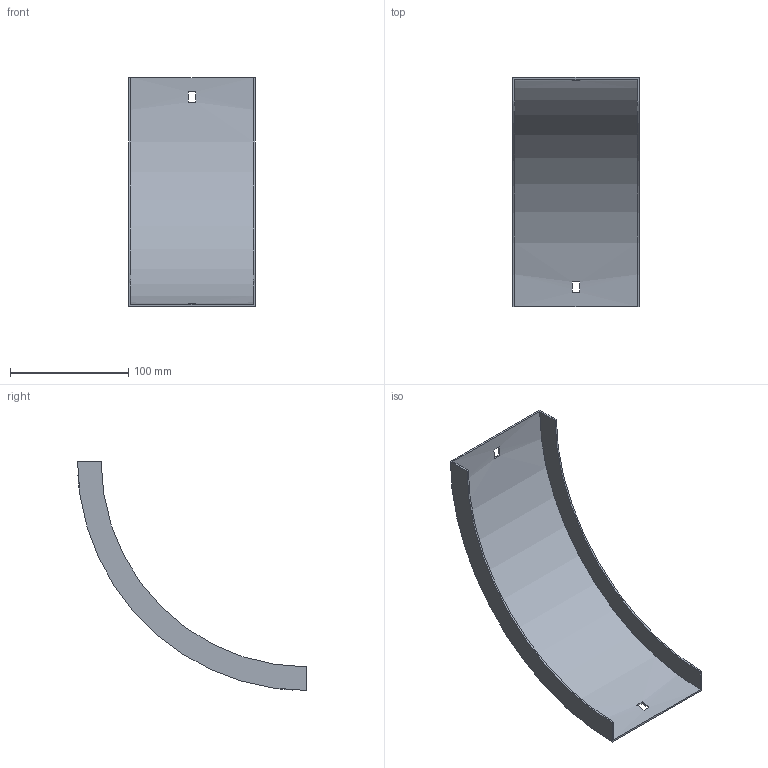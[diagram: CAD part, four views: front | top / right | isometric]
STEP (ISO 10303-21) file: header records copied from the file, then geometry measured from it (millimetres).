
FILE_DESCRIPTION (( 'STEP AP214' ), '1' );
FILE_NAME ('33N1I100.step', '2025-02-21T09:19:27', ( '' ), ( '' ), 'SwSTEP 2.0', 'SolidWorks 2023', '' );
FILE_SCHEMA (( 'AUTOMOTIVE_DESIGN' ));
Length unit declared in the file: millimetre
Products named in the file (1): 33N1I100
Bounding box: 107 x 194 x 194 mm (x, y, z)
Volume: 64520.2 mm3; surface area: 87375.8 mm2
Topology: 1 solids, 1 shells, 18 faces, 48 edges, 32 vertices
Faces by surface type: plane 14, cylinder 4
Entity records: 599 total; most frequent: DIRECTION 102, CARTESIAN_POINT 99, ORIENTED_EDGE 96, EDGE_CURVE 48, AXIS2_PLACEMENT_3D 35, VERTEX_POINT 32, LINE 32, VECTOR 32
